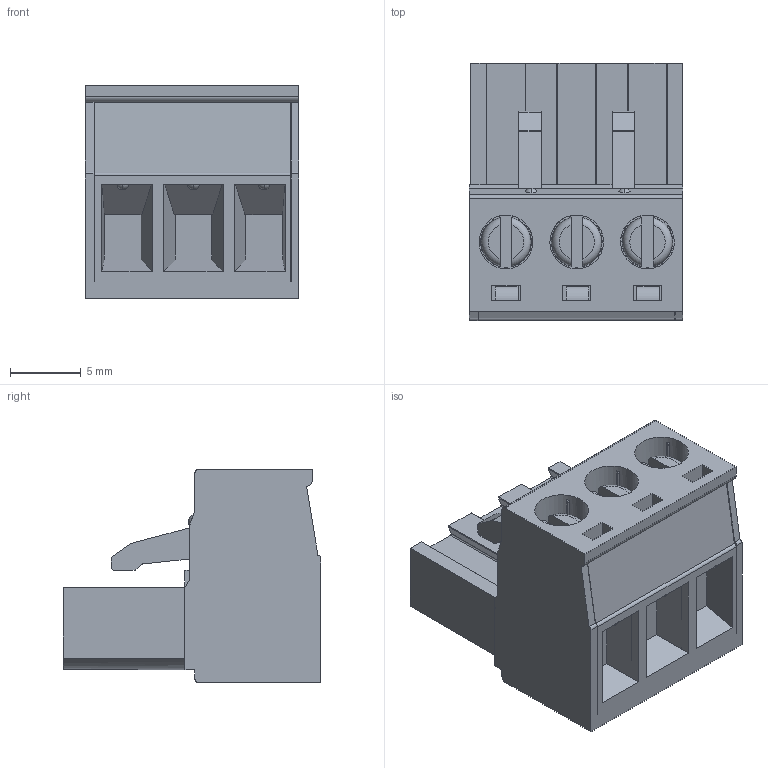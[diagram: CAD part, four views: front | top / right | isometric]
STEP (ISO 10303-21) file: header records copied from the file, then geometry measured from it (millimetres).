
FILE_DESCRIPTION((''),'2;1');
FILE_NAME('3','2019-04-04T',('zhenbing.lai'),(''),'CREO PARAMETRIC BY PTC INC, 2016260','CREO PARAMETRIC BY PTC INC, 2016260','');
FILE_SCHEMA(('CONFIG_CONTROL_DESIGN'));
Length unit declared in the file: millimetre
Products named in the file (1): 3
Bounding box: 15.1 x 18.2 x 15.1 mm (x, y, z)
Volume: 2444.4 mm3; surface area: 2157.1 mm2
Topology: 1 solids, 4 shells, 408 faces, 1153 edges, 757 vertices
Faces by surface type: plane 286, cylinder 85, cone 21, sphere 10, torus 6
Entity records: 13416 total; most frequent: CARTESIAN_POINT 2734, ORIENTED_EDGE 2286, DIRECTION 2144, EDGE_CURVE 1143, VECTOR 818, LINE 818, VERTEX_POINT 757, AXIS2_PLACEMENT_3D 663
